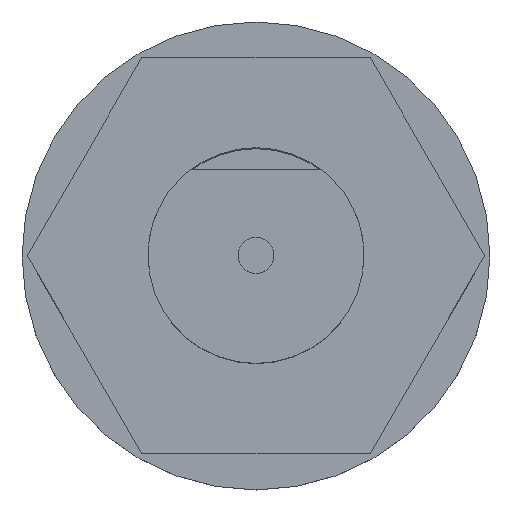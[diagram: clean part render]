
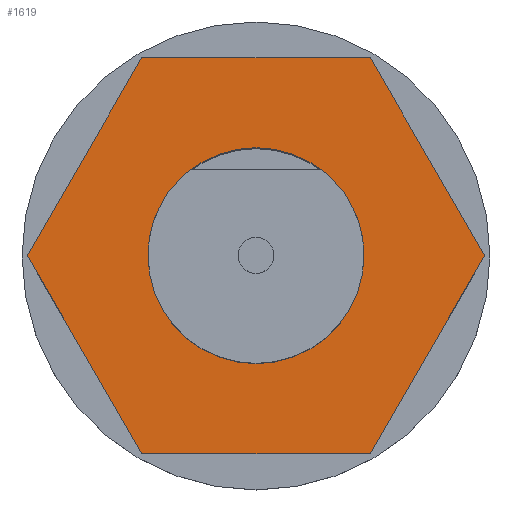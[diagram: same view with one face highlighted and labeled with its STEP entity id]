
A CAD part, top view. The second image highlights one B-rep face of the part: STEP entity #1619.
In plain terms, the highlighted planar face has unit normal (0, 0, 1) as drawn and (0, -1, 0) by its records, which use the part's own axes.
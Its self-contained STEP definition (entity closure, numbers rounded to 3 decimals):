
#28 = VERTEX_POINT ( 'NONE', #1448 ) ;
#29 = VERTEX_POINT ( 'NONE', #1447 ) ;
#32 = EDGE_CURVE ( 'NONE', #29, #28, #1439, .T. ) ;
#840 = DIRECTION ( 'NONE',  ( 0., 0., 1. ) ) ;
#841 = DIRECTION ( 'NONE',  ( 0., 1., 0. ) ) ;
#842 = CARTESIAN_POINT ( 'NONE',  ( 0., 2.3, 0. ) ) ;
#843 = AXIS2_PLACEMENT_3D ( 'NONE', #842, #841, #840 ) ;
#844 = CIRCLE ( 'NONE', #843, 1.5 ) ;
#867 = DIRECTION ( 'NONE',  ( 0., 0., -1. ) ) ;
#868 = VECTOR ( 'NONE', #867, 1000. ) ;
#869 = CARTESIAN_POINT ( 'NONE',  ( 2.75, 2.3, 1.588 ) ) ;
#870 = LINE ( 'NONE', #869, #868 ) ;
#871 = CARTESIAN_POINT ( 'NONE',  ( 2.75, 2.3, -1.588 ) ) ;
#872 = CARTESIAN_POINT ( 'NONE',  ( 0., 2.3, -3.175 ) ) ;
#873 = DIRECTION ( 'NONE',  ( -0.866, 0., -0.5 ) ) ;
#874 = VECTOR ( 'NONE', #873, 1000. ) ;
#875 = CARTESIAN_POINT ( 'NONE',  ( 2.75, 2.3, -1.588 ) ) ;
#876 = LINE ( 'NONE', #875, #874 ) ;
#877 = CARTESIAN_POINT ( 'NONE',  ( 2.75, 2.3, 1.588 ) ) ;
#878 = DIRECTION ( 'NONE',  ( 0.866, 0., -0.5 ) ) ;
#879 = VECTOR ( 'NONE', #878, 1000. ) ;
#880 = CARTESIAN_POINT ( 'NONE',  ( 0., 2.3, 3.175 ) ) ;
#881 = LINE ( 'NONE', #880, #879 ) ;
#882 = DIRECTION ( 'NONE',  ( 0.866, 0., 0.5 ) ) ;
#883 = VECTOR ( 'NONE', #882, 1000. ) ;
#884 = CARTESIAN_POINT ( 'NONE',  ( -2.75, 2.3, 1.588 ) ) ;
#885 = LINE ( 'NONE', #884, #883 ) ;
#886 = CARTESIAN_POINT ( 'NONE',  ( -2.75, 2.3, 1.588 ) ) ;
#887 = CARTESIAN_POINT ( 'NONE',  ( 0., 2.3, 3.175 ) ) ;
#888 = DIRECTION ( 'NONE',  ( 0., 0., 1. ) ) ;
#889 = VECTOR ( 'NONE', #888, 1000. ) ;
#890 = CARTESIAN_POINT ( 'NONE',  ( -2.75, 2.3, -1.588 ) ) ;
#891 = LINE ( 'NONE', #890, #889 ) ;
#892 = DIRECTION ( 'NONE',  ( -0.866, 0., 0.5 ) ) ;
#893 = VECTOR ( 'NONE', #892, 1000. ) ;
#894 = CARTESIAN_POINT ( 'NONE',  ( 0., 2.3, -3.175 ) ) ;
#895 = LINE ( 'NONE', #894, #893 ) ;
#896 = CARTESIAN_POINT ( 'NONE',  ( -2.75, 2.3, -1.588 ) ) ;
#925 = DIRECTION ( 'NONE',  ( 0., 0., -1. ) ) ;
#926 = DIRECTION ( 'NONE',  ( 0., -1., 0. ) ) ;
#927 = CARTESIAN_POINT ( 'NONE',  ( 5.5, 2.3, 0. ) ) ;
#928 = AXIS2_PLACEMENT_3D ( 'NONE', #927, #926, #925 ) ;
#929 = PLANE ( 'NONE',  #928 ) ;
#931 = FACE_BOUND ( 'NONE', #1598, .T. ) ;
#932 = FACE_OUTER_BOUND ( 'NONE', #1610, .T. ) ;
#1439 = CIRCLE ( 'NONE', #1504, 1.5 ) ;
#1447 = CARTESIAN_POINT ( 'NONE',  ( 0., 2.3, -1.5 ) ) ;
#1448 = CARTESIAN_POINT ( 'NONE',  ( 0., 2.3, 1.5 ) ) ;
#1501 = DIRECTION ( 'NONE',  ( 0., 0., 1. ) ) ;
#1502 = DIRECTION ( 'NONE',  ( 0., 1., 0. ) ) ;
#1503 = CARTESIAN_POINT ( 'NONE',  ( 0., 2.3, 0. ) ) ;
#1504 = AXIS2_PLACEMENT_3D ( 'NONE', #1503, #1502, #1501 ) ;
#1593 = ORIENTED_EDGE ( 'NONE', *, *, #1594, .T. ) ;
#1594 = EDGE_CURVE ( 'NONE', #28, #29, #844, .T. ) ;
#1598 = EDGE_LOOP ( 'NONE', ( #1602, #1593 ) ) ;
#1599 = VERTEX_POINT ( 'NONE', #896 ) ;
#1600 = ORIENTED_EDGE ( 'NONE', *, *, #1601, .F. ) ;
#1601 = EDGE_CURVE ( 'NONE', #1616, #1599, #895, .T. ) ;
#1602 = ORIENTED_EDGE ( 'NONE', *, *, #32, .T. ) ;
#1603 = EDGE_CURVE ( 'NONE', #1599, #1606, #891, .T. ) ;
#1604 = ORIENTED_EDGE ( 'NONE', *, *, #1603, .F. ) ;
#1605 = VERTEX_POINT ( 'NONE', #887 ) ;
#1606 = VERTEX_POINT ( 'NONE', #886 ) ;
#1607 = ORIENTED_EDGE ( 'NONE', *, *, #1608, .F. ) ;
#1608 = EDGE_CURVE ( 'NONE', #1606, #1605, #885, .T. ) ;
#1609 = ORIENTED_EDGE ( 'NONE', *, *, #1615, .F. ) ;
#1610 = EDGE_LOOP ( 'NONE', ( #1609, #1614, #1613, #1607, #1604, #1600 ) ) ;
#1611 = EDGE_CURVE ( 'NONE', #1605, #1612, #881, .T. ) ;
#1612 = VERTEX_POINT ( 'NONE', #877 ) ;
#1613 = ORIENTED_EDGE ( 'NONE', *, *, #1611, .F. ) ;
#1614 = ORIENTED_EDGE ( 'NONE', *, *, #1618, .F. ) ;
#1615 = EDGE_CURVE ( 'NONE', #1617, #1616, #876, .T. ) ;
#1616 = VERTEX_POINT ( 'NONE', #872 ) ;
#1617 = VERTEX_POINT ( 'NONE', #871 ) ;
#1618 = EDGE_CURVE ( 'NONE', #1612, #1617, #870, .T. ) ;
#1619 = ADVANCED_FACE ( 'NONE', ( #932, #931 ), #929, .T. ) ;
